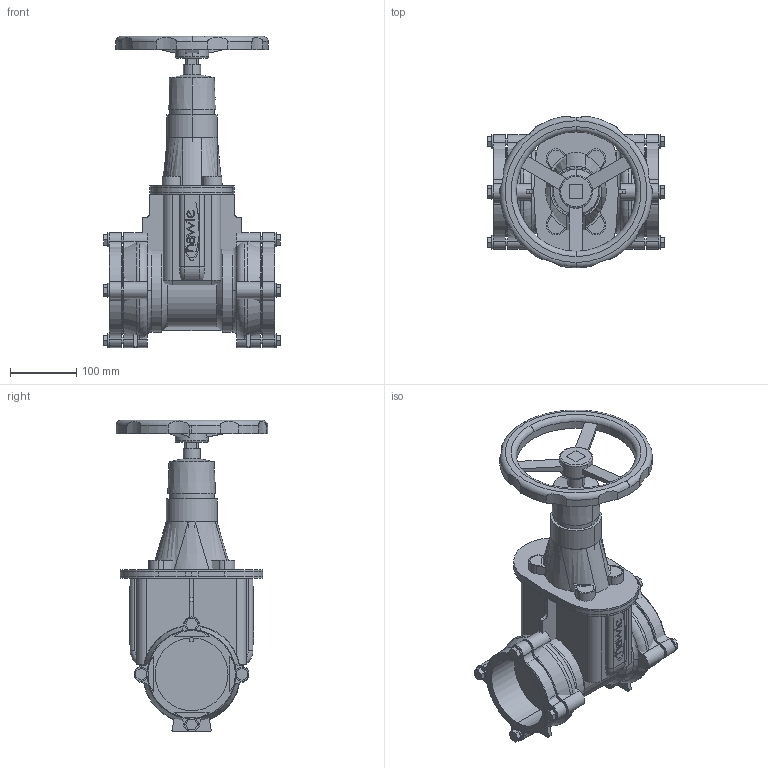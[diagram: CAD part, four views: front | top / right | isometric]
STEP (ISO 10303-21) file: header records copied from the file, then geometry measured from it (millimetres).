
FILE_DESCRIPTION(('STEP AP214'),'1');
FILE_NAME('S:/EK/USER/CAT6/3DHomepage/4040E2/4040E2-PN16-DN100-110-HANDRAD.STP','2012-04-24T10:59:00',(' '),(' '),'Spatial InterOp 3D',' ',' ');
FILE_SCHEMA(('automotive_design'));
Length unit declared in the file: millimetre
Products named in the file (91): 3D-Objekt
Bounding box: 266.8 x 228.67 x 469.5 mm (x, y, z)
Volume: 6267320 mm3; surface area: 889209.9 mm2
Topology: 91 solids, 91 shells, 792 faces, 1808 edges, 1204 vertices
Faces by surface type: plane 458, cylinder 272, torus 36, cone 14, bspline 12
Entity records: 31355 total; most frequent: CARTESIAN_POINT 4385, DIRECTION 4238, ORIENTED_EDGE 3616, EDGE_CURVE 1808, AXIS2_PLACEMENT_3D 1569, VERTEX_POINT 1204, LINE 1100, VECTOR 1100
